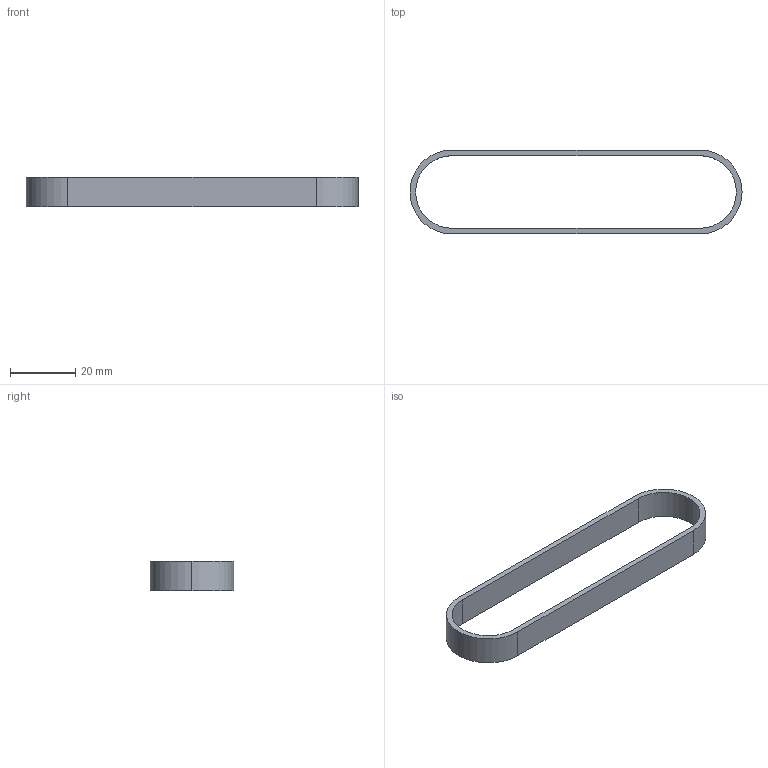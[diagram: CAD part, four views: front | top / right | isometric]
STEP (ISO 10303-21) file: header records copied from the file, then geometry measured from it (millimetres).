
FILE_DESCRIPTION (( 'STEP AP214' ), '1' );
FILE_NAME ('am-3273 225-5M-09 (45T) Belt.STEP', '2023-09-08T17:48:51', ( '' ), ( '' ), 'SwSTEP 2.0', 'SolidWorks 2022', '' );
FILE_SCHEMA (( 'AUTOMOTIVE_DESIGN' ));
Length unit declared in the file: inch
Products named in the file (1): am-3273 225-5M-09 (45T) Belt
Bounding box: 101.96 x 25.76 x 9 mm (x, y, z)
Volume: 3568.3 mm3; surface area: 4894.5 mm2
Topology: 1 solids, 1 shells, 12 faces, 30 edges, 20 vertices
Faces by surface type: cylinder 6, plane 6
Entity records: 410 total; most frequent: DIRECTION 68, CARTESIAN_POINT 63, ORIENTED_EDGE 60, EDGE_CURVE 30, AXIS2_PLACEMENT_3D 25, VERTEX_POINT 20, LINE 18, VECTOR 18
